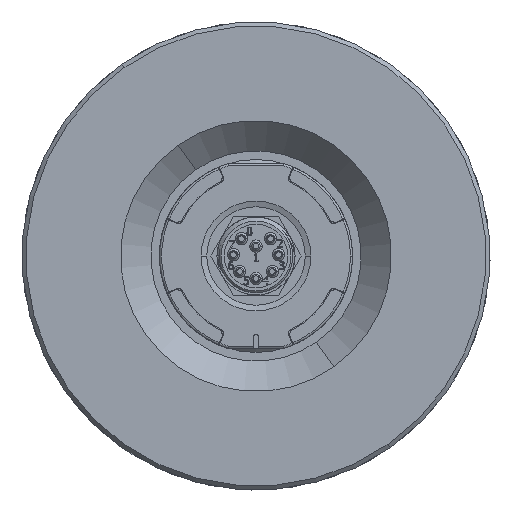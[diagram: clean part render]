
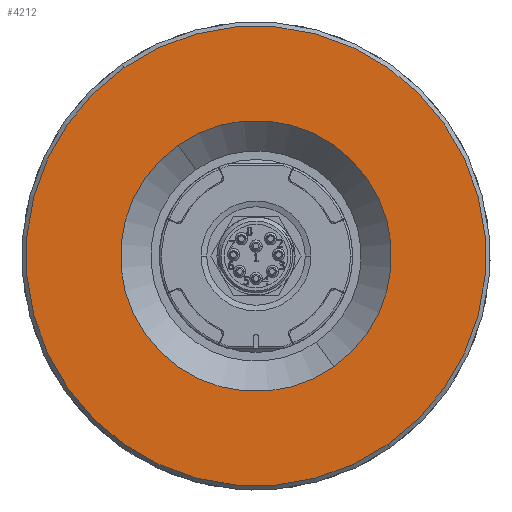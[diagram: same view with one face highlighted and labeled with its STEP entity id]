
A CAD part, front view. The second image highlights one B-rep face of the part: STEP entity #4212.
In plain terms, the highlighted planar face has unit normal (0, -1, 0).
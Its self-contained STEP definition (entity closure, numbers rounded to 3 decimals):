
#212 = DIRECTION ( 'NONE',  ( 0., 1., 0. ) ) ;
#335 = ORIENTED_EDGE ( 'NONE', *, *, #8065, .T. ) ;
#1800 = CARTESIAN_POINT ( 'NONE',  ( -32.157, 39.9, 45.847 ) ) ;
#1895 = ORIENTED_EDGE ( 'NONE', *, *, #12853, .T. ) ;
#2000 = CARTESIAN_POINT ( 'NONE',  ( -46.666, 39.9, -32.731 ) ) ;
#2046 = AXIS2_PLACEMENT_3D ( 'NONE', #17589, #14780, #8276 ) ;
#2156 = VERTEX_POINT ( 'NONE', #6597 ) ;
#2414 = EDGE_CURVE ( 'NONE', #9639, #13269, #9901, .T. ) ;
#2946 = CARTESIAN_POINT ( 'NONE',  ( 0., 39.9, 0. ) ) ;
#3614 = AXIS2_PLACEMENT_3D ( 'NONE', #3667, #14590, #5219 ) ;
#3667 = CARTESIAN_POINT ( 'NONE',  ( 0., 39.9, 0. ) ) ;
#4149 = AXIS2_PLACEMENT_3D ( 'NONE', #2000, #8030, #9626 ) ;
#4212 = ADVANCED_FACE ( 'NONE', ( #18074, #13321 ), #18785, .F. ) ;
#4510 = DIRECTION ( 'NONE',  ( 0., -1., 0. ) ) ;
#5219 = DIRECTION ( 'NONE',  ( -0.574, 0., 0.819 ) ) ;
#6228 = CARTESIAN_POINT ( 'NONE',  ( 0., 39.9, 0. ) ) ;
#6478 = EDGE_LOOP ( 'NONE', ( #1895, #335 ) ) ;
#6597 = CARTESIAN_POINT ( 'NONE',  ( -18.949, 39.9, 27.017 ) ) ;
#8030 = DIRECTION ( 'NONE',  ( 0., 1., 0. ) ) ;
#8065 = EDGE_CURVE ( 'NONE', #2156, #18431, #12791, .T. ) ;
#8276 = DIRECTION ( 'NONE',  ( -0.574, 0., 0.819 ) ) ;
#8308 = ORIENTED_EDGE ( 'NONE', *, *, #9130, .T. ) ;
#9130 = EDGE_CURVE ( 'NONE', #13269, #9639, #10667, .T. ) ;
#9311 = AXIS2_PLACEMENT_3D ( 'NONE', #2946, #4510, #13949 ) ;
#9626 = DIRECTION ( 'NONE',  ( -0.574, 0., 0.819 ) ) ;
#9639 = VERTEX_POINT ( 'NONE', #1800 ) ;
#9845 = CARTESIAN_POINT ( 'NONE',  ( 18.949, 39.9, -27.017 ) ) ;
#9901 = CIRCLE ( 'NONE', #9311, 56. ) ;
#10658 = CARTESIAN_POINT ( 'NONE',  ( 32.157, 39.9, -45.847 ) ) ;
#10667 = CIRCLE ( 'NONE', #3614, 56. ) ;
#11359 = ORIENTED_EDGE ( 'NONE', *, *, #2414, .T. ) ;
#12791 = CIRCLE ( 'NONE', #2046, 33. ) ;
#12853 = EDGE_CURVE ( 'NONE', #18431, #2156, #19994, .T. ) ;
#13269 = VERTEX_POINT ( 'NONE', #10658 ) ;
#13321 = FACE_BOUND ( 'NONE', #6478, .T. ) ;
#13949 = DIRECTION ( 'NONE',  ( -0.574, 0., 0.819 ) ) ;
#14261 = DIRECTION ( 'NONE',  ( -0.574, 0., 0.819 ) ) ;
#14590 = DIRECTION ( 'NONE',  ( 0., -1., 0. ) ) ;
#14780 = DIRECTION ( 'NONE',  ( 0., 1., 0. ) ) ;
#14788 = EDGE_LOOP ( 'NONE', ( #11359, #8308 ) ) ;
#17589 = CARTESIAN_POINT ( 'NONE',  ( 0., 39.9, 0. ) ) ;
#18074 = FACE_OUTER_BOUND ( 'NONE', #14788, .T. ) ;
#18431 = VERTEX_POINT ( 'NONE', #9845 ) ;
#18785 = PLANE ( 'NONE',  #4149 ) ;
#19619 = AXIS2_PLACEMENT_3D ( 'NONE', #6228, #212, #14261 ) ;
#19994 = CIRCLE ( 'NONE', #19619, 33. ) ;
